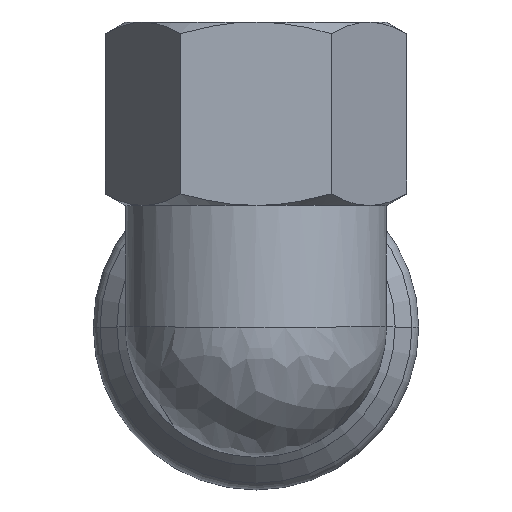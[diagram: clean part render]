
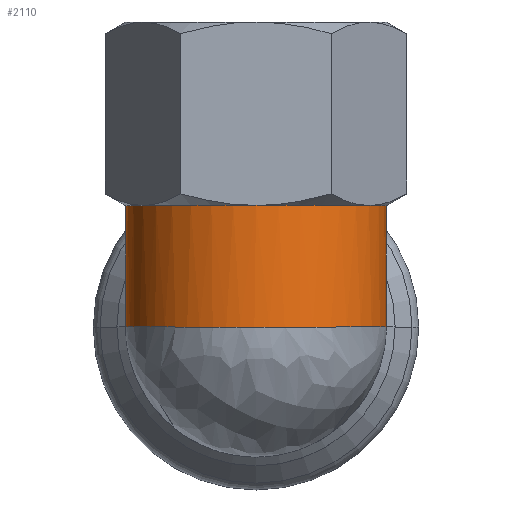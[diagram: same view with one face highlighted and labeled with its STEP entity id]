
A CAD part, top view. The second image highlights one B-rep face of the part: STEP entity #2110.
In plain terms, the highlighted cylindrical face has radius 15 mm (diameter 30 mm), a partial arc.
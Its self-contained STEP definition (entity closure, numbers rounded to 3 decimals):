
#1180=CARTESIAN_POINT('',(0.,0.,27.8));
#1190=DIRECTION('',(0.,1.,0.));
#1200=DIRECTION('',(1.,0.,0.));
#1210=AXIS2_PLACEMENT_3D('',#1180,#1190,#1200);
#1220=CYLINDRICAL_SURFACE('',#1210,15.);
#1230=CARTESIAN_POINT('',(0.,0.,27.8));
#1240=DIRECTION('',(0.,-0.707,-0.707));
#1250=DIRECTION('',(0.,-0.707,0.707));
#1260=AXIS2_PLACEMENT_3D('',#1230,#1240,#1250);
#1270=ELLIPSE('',#1260,21.213,15.);
#1280=CARTESIAN_POINT('',(-15.,0.,27.8));
#1290=VERTEX_POINT('',#1280);
#1300=CARTESIAN_POINT('',(-5.638,13.9,13.9));
#1310=VERTEX_POINT('',#1300);
#1320=EDGE_CURVE('',#1290,#1310,#1270,.T.);
#1330=ORIENTED_EDGE('',*,*,#1320,.F.);
#1340=CARTESIAN_POINT('',(0.,13.9,27.8));
#1350=DIRECTION('',(0.,1.,0.));
#1360=DIRECTION('',(1.,0.,0.));
#1370=AXIS2_PLACEMENT_3D('',#1340,#1350,#1360);
#1380=CIRCLE('',#1370,15.);
#1390=CARTESIAN_POINT('',(-12.99,13.9,20.3));
#1400=VERTEX_POINT('',#1390);
#1410=EDGE_CURVE('',#1310,#1400,#1380,.T.);
#1420=ORIENTED_EDGE('',*,*,#1410,.F.);
#1430=CARTESIAN_POINT('',(-12.99,13.9,35.3));
#1440=VERTEX_POINT('',#1430);
#1450=EDGE_CURVE('',#1400,#1440,#1380,.T.);
#1460=ORIENTED_EDGE('',*,*,#1450,.F.);
#1470=CARTESIAN_POINT('',(0.,13.9,27.8));
#1480=DIRECTION('',(0.,1.,0.));
#1490=DIRECTION('',(1.,0.,0.));
#1500=AXIS2_PLACEMENT_3D('',#1470,#1480,#1490);
#1510=CIRCLE('',#1500,15.);
#1520=CARTESIAN_POINT('',(0.,13.9,42.8));
#1530=VERTEX_POINT('',#1520);
#1540=EDGE_CURVE('',#1440,#1530,#1510,.T.);
#1550=ORIENTED_EDGE('',*,*,#1540,.F.);
#1560=CARTESIAN_POINT('',(12.99,13.9,35.3));
#1570=VERTEX_POINT('',#1560);
#1580=EDGE_CURVE('',#1530,#1570,#1510,.T.);
#1590=ORIENTED_EDGE('',*,*,#1580,.F.);
#1600=CARTESIAN_POINT('',(12.99,13.9,20.3));
#1610=VERTEX_POINT('',#1600);
#1620=EDGE_CURVE('',#1570,#1610,#1510,.T.);
#1630=ORIENTED_EDGE('',*,*,#1620,.F.);
#1640=CARTESIAN_POINT('',(5.638,13.9,13.9));
#1650=VERTEX_POINT('',#1640);
#1660=EDGE_CURVE('',#1610,#1650,#1510,.T.);
#1670=ORIENTED_EDGE('',*,*,#1660,.F.);
#1680=CARTESIAN_POINT('',(15.,0.,27.8));
#1690=VERTEX_POINT('',#1680);
#1700=EDGE_CURVE('',#1650,#1690,#1270,.T.);
#1710=ORIENTED_EDGE('',*,*,#1700,.F.);
#1720=CARTESIAN_POINT('',(15.,0.,27.8));
#1730=CARTESIAN_POINT('',(15.,-0.003,28.121));
#1740=CARTESIAN_POINT('',(14.99,-0.004,
28.442));
#1750=CARTESIAN_POINT('',(14.948,-0.009,
29.083));
#1760=CARTESIAN_POINT('',(14.917,-0.011,
29.404));
#1770=CARTESIAN_POINT('',(14.793,-0.017,
30.366));
#1780=CARTESIAN_POINT('',(14.668,-0.021,
31.002));
#1790=CARTESIAN_POINT('',(14.162,-0.034,
32.92));
#1800=CARTESIAN_POINT('',(13.65,-0.042,
34.16));
#1810=CARTESIAN_POINT('',(12.523,-0.055,
36.107));
#1820=CARTESIAN_POINT('',(11.993,-0.06,
36.855));
#1830=CARTESIAN_POINT('',(10.769,-0.07,
38.286));
#1840=CARTESIAN_POINT('',(10.07,-0.074,
38.959));
#1850=CARTESIAN_POINT('',(8.025,-0.085,
40.578));
#1860=CARTESIAN_POINT('',(6.582,-0.091,
41.378));
#1870=CARTESIAN_POINT('',(3.421,-0.098,
42.505));
#1880=CARTESIAN_POINT('',(1.717,-0.1,
42.8));
#1890=CARTESIAN_POINT('',(-1.717,-0.1,
42.8));
#1900=CARTESIAN_POINT('',(-3.421,-0.098,
42.505));
#1910=CARTESIAN_POINT('',(-6.582,-0.091,
41.378));
#1920=CARTESIAN_POINT('',(-8.025,-0.085,
40.578));
#1930=CARTESIAN_POINT('',(-10.07,-0.074,
38.959));
#1940=CARTESIAN_POINT('',(-10.769,-0.07,
38.286));
#1950=CARTESIAN_POINT('',(-11.993,-0.06,
36.855));
#1960=CARTESIAN_POINT('',(-12.523,-0.055,
36.107));
#1970=CARTESIAN_POINT('',(-13.65,-0.042,
34.16));
#1980=CARTESIAN_POINT('',(-14.162,-0.034,
32.92));
#1990=CARTESIAN_POINT('',(-14.668,-0.021,
31.002));
#2000=CARTESIAN_POINT('',(-14.793,-0.017,
30.366));
#2010=CARTESIAN_POINT('',(-14.917,-0.011,
29.404));
#2020=CARTESIAN_POINT('',(-14.948,-0.009,
29.083));
#2030=CARTESIAN_POINT('',(-14.99,-0.004,
28.442));
#2040=CARTESIAN_POINT('',(-15.,-0.003,28.121));
#2050=CARTESIAN_POINT('',(-15.,0.,27.8));
#2060=B_SPLINE_CURVE_WITH_KNOTS('',3,(#1720,#1730,#1740,#1750,#1760,
#1770,#1780,#1790,#1800,#1810,#1820,#1830,#1840,#1850,#1860,#1870,#1880,
#1890,#1900,#1910,#1920,#1930,#1940,#1950,#1960,#1970,#1980,#1990,#2000,
#2010,#2020,#2030,#2040,#2050),.UNSPECIFIED.,.F.,.F.,(4,2,2,2,2,2,2,2,2,
2,2,2,2,2,2,2,4),(0.,0.963,1.928,3.873
,7.878,10.622,13.527,18.445,
23.595,28.745,33.662,36.568,
39.311,43.317,45.261,46.226,
47.189),.UNSPECIFIED.);
#2070=EDGE_CURVE('',#1690,#1290,#2060,.T.);
#2080=ORIENTED_EDGE('',*,*,#2070,.F.);
#2090=EDGE_LOOP('',(#2080,#1710,#1670,#1630,#1590,#1550,#1460,#1420,
#1330));
#2100=FACE_OUTER_BOUND('',#2090,.T.);
#2110=ADVANCED_FACE('',(#2100),#1220,.T.);
